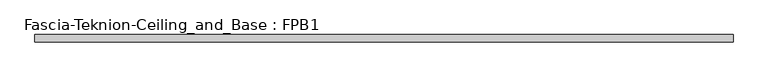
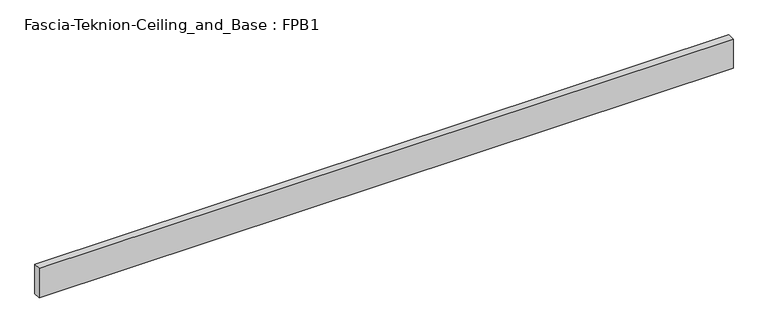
"""IFC4 building model written with IfcOpenShell, lengths in millimetres: proxy geometry, Fascia-Teknion-Ceiling_and_Base : FPB1."""

from ifc_helpers import new_model, si_unit, origin, origin_with_axes, place, context, project, spatial, polyline, outline, extrude, source, transform, mapped, element, save


def fascia_teknion_ceiling_and_base_fpb1_086ac043(model_context):
    return source(origin(), model_context, "Body", "SweptSolid", [
        extrude(outline(polyline([(911.225, 0.0), (-911.225, 0.0), (-911.225, 19.05), (911.225, 19.05), (911.225, 0.0)])), origin_with_axes(), (0.0, 0.0, 1.0), 81.28),
    ])


if __name__ == "__main__":
    model = new_model("IFC4")
    model_context = context("Model", 3, world=origin())
    ifc_project = project(units=[si_unit("LENGTHUNIT", "METRE", prefix="MILLI")], contexts=[model_context])
    site = spatial("IfcSite", under=ifc_project)
    building = spatial("IfcBuilding", under=site)
    placement = place(None, origin())
    fascia_teknion_ceiling_and_base_fpb1_shape = fascia_teknion_ceiling_and_base_fpb1_086ac043(model_context)
    element("IfcBuildingElementProxy", 1, Name="Fascia-Teknion-Ceiling_and_Base : FPB1", ObjectType="Fascia-Teknion-Ceiling_and_Base : FPB1", at=placement, inside=building, context=model_context, shape_type="MappedRepresentation", body=[
        mapped(fascia_teknion_ceiling_and_base_fpb1_shape, transform((0.0, 0.0, 0.0), x_axis=(1.0, 0.0, 0.0), y_axis=(0.0, 1.0, 0.0), z_axis=(0.0, 0.0, 1.0))),
    ])
    save(model, "model.ifc")
